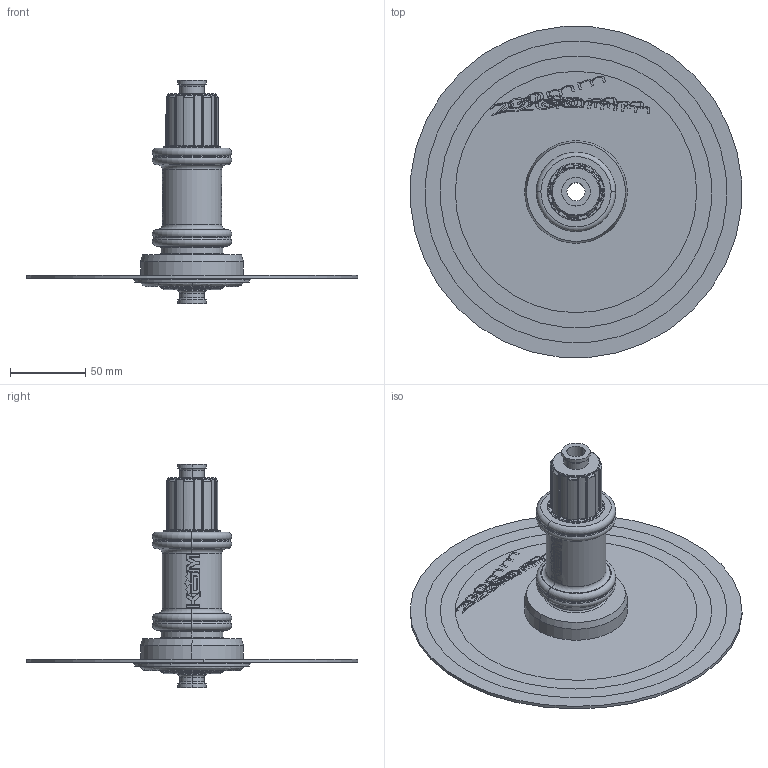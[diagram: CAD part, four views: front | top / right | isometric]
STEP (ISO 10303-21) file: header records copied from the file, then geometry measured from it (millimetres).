
FILE_DESCRIPTION (( 'STEP AP203' ), '1' );
FILE_NAME ('5 Basic Boost Hub model with discs & R32 Bosch E bike magnet.STEP', '2024-06-26T14:06:32', ( 'Steve' ), ( '' ), 'SwSTEP 2.0', 'SolidWorks 2003240', '' );
FILE_SCHEMA (( 'CONFIG_CONTROL_DESIGN' ));
Length unit declared in the file: millimetre
Products named in the file (7): 6 Clearance 148mm BOOST with KOM logo; Standard Bosch Magnet centred on circle radius 32mm; 5 Basic Boost Hub model with discs & R32 Bosch E bike magnet; 200 x 2mm Disc; 160 x 2mm Disc; 180 x 2mm Disc; 220 x 2mm Disc
Assembly tree (6 placements, depth 2):
  5 Basic Boost Hub model with discs & R32 Bosch E bike magnet
    180 x 2mm Disc
    220 x 2mm Disc
    Standard Bosch Magnet centred on circle radius 32mm
    200 x 2mm Disc
    6 Clearance 148mm BOOST with KOM logo
    160 x 2mm Disc
Bounding box: 219.43 x 219.43 x 148 mm (x, y, z)
Volume: 419744.2 mm3; surface area: 262547.5 mm2
Topology: 6 solids, 6 shells, 1244 faces, 3256 edges, 2076 vertices
Faces by surface type: plane 508, bspline 455, cylinder 169, torus 99, cone 13
Entity records: 97354 total; most frequent: CARTESIAN_POINT 69135, ORIENTED_EDGE 6448, DIRECTION 4392, EDGE_CURVE 3224, VERTEX_POINT 2076, VECTOR 1644, LINE 1644, AXIS2_PLACEMENT_3D 1374
